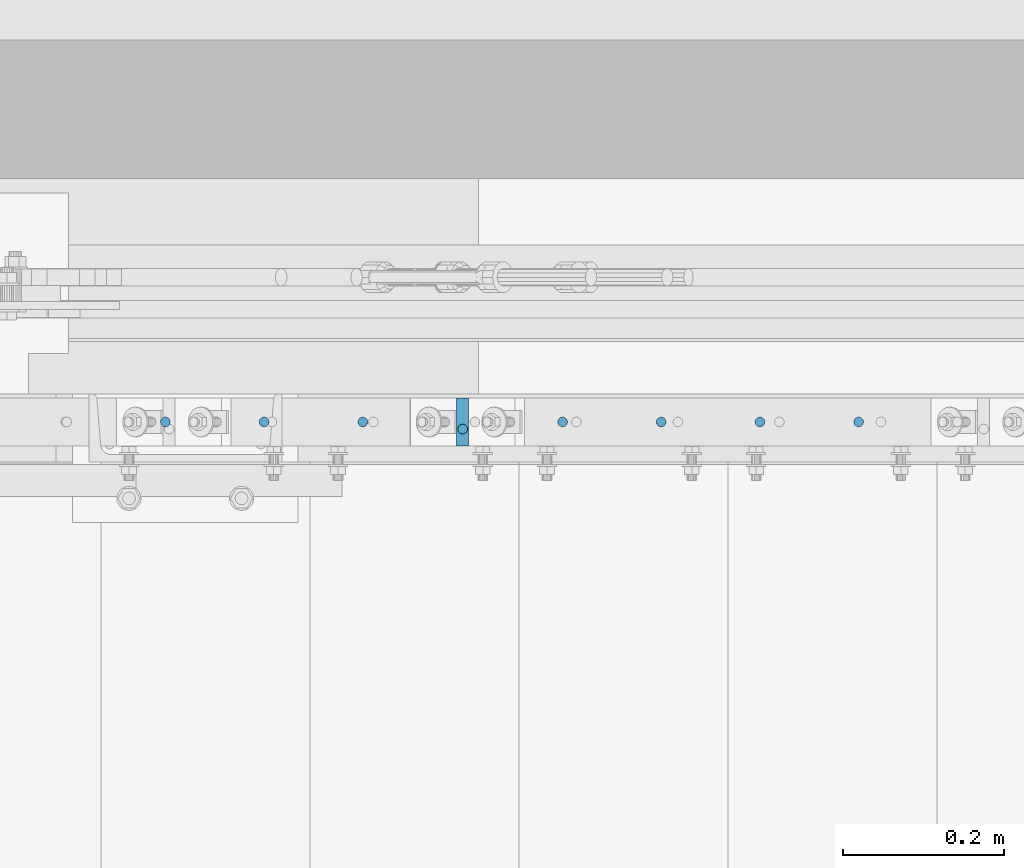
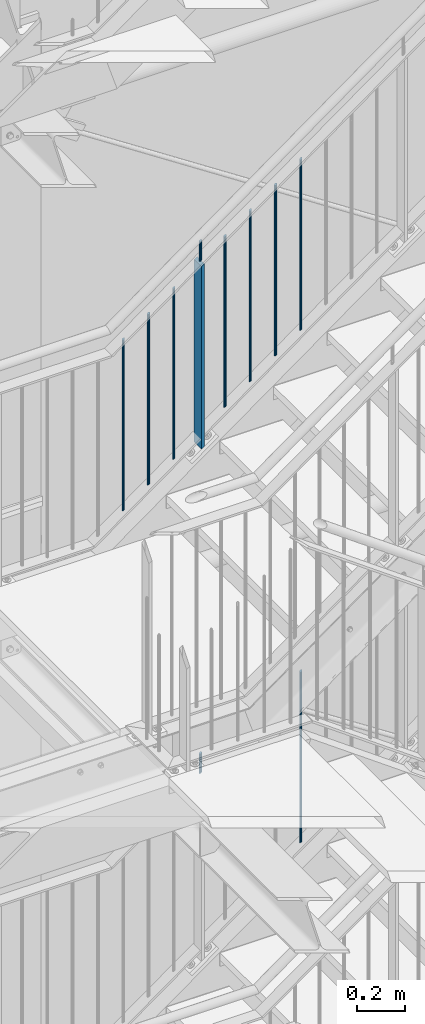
# One storey, part 76 of 825: 11 columns.
"""IFC2X3 building model written with IfcOpenShell, lengths in millimetres."""

from ifc_helpers import new_model, entity, si_unit, converted_unit, frame, origin, origin_with_axes, origin_2d, place, context, project, spatial, rectangle, circle, extrude, clip, halfspace, material, element, save


model = new_model("IFC2X3")

# Units and contexts
model_context = context("Model", 3, precision=1e-09, world=origin_with_axes())
ifc_project = project(units=[si_unit("LENGTHUNIT", "METRE", prefix="MILLI"), si_unit("AREAUNIT", "SQUARE_METRE"), si_unit("VOLUMEUNIT", "CUBIC_METRE"), converted_unit("PLANEANGLEUNIT", "DEGREE", entity("IfcPlaneAngleMeasure", 0.01745329), si_unit("PLANEANGLEUNIT", "RADIAN"), dimensions=[0, 0, 0, 0, 0, 0, 0])], contexts=[model_context])

# Site, building, storey
site_placement = place(None, origin_with_axes())
site = spatial("IfcSite", under=ifc_project, at=site_placement, Name="Cnopf'sche Kinderklinik", CompositionType="ELEMENT")
building_placement = place(site_placement, origin_with_axes())
building = spatial("IfcBuilding", under=site, at=building_placement, Name="Struktur 1", CompositionType="ELEMENT")
storey_placement = place(building_placement, origin_with_axes())
storey = spatial("IfcBuildingStorey", under=building, at=storey_placement, Name="Default Storey", CompositionType="ELEMENT", Elevation=0.0)

# Columns
ifc_material = material(Name="S235JR")
column_1_placement = place(None, frame((6179.213617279, 7356.736971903, 11644.193044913), z_axis=(0.0, 0.0, 1.0), x_axis=(1.0, 0.0, 0.0)))
element("IfcColumn", 1, at=column_1_placement, inside=storey, material=ifc_material, Name="Railing_Picket_Stair#10", ObjectType="Railing_Picket_Stair#10", context=model_context, shape_type="Clipping", body=[
    clip(clip(extrude(circle(Radius=6.0, at=origin_2d()), origin(), (0.0, 0.0, -1.0), 896.125751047), halfspace(frame((-9583.626906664, -7356.736971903, -6927.000669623), z_axis=(0.585213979, 0.0, -0.810878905), x_axis=(0.0, 1.0, 0.0)), True)), halfspace(frame((-9168.314061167, -7356.736971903, -7502.462701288), z_axis=(-0.585213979, 0.0, 0.810878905), x_axis=(0.0, -1.0, 0.0)), True)),
])
column_2_placement = place(None, frame((5686.71354585, 7347.936971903, 11401.086417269), z_axis=(0.0, 0.0, 1.0), x_axis=(0.0, -1.0, 0.0)))
element("IfcColumn", 2, at=column_2_placement, inside=storey, material=ifc_material, Name="Bar#1", ObjectType="Bar#1", context=model_context, shape_type="Clipping", body=[
    clip(clip(extrude(circle(Radius=6.0, at=origin_2d()), origin(), (0.0, 0.0, -1.0), 120.928603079), halfspace(frame((7347.936971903, -9096.980145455, -6675.78363117), z_axis=(0.0, -0.585213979, 0.810878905), x_axis=(1.0, 0.0, 0.0)), True)), halfspace(frame((7347.936971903, -9144.432742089, -6610.032793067), z_axis=(0.0, 0.585213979, -0.810878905), x_axis=(-1.0, 0.0, 0.0)), True)),
])
column_3_placement = place(None, frame((5686.71354585, 7356.736971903, 13944.413997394), z_axis=(0.0, 0.0, 1.0), x_axis=(1.0, 0.0, 0.0)))
element("IfcColumn", 3, at=column_3_placement, inside=storey, material=ifc_material, Name="Railing_Post_Stair#1", ObjectType="Railing_Post_Stair#1", context=model_context, shape_type="Clipping", body=[
    clip(clip(extrude(rectangle(XDim=15.0, YDim=60.0, at=origin_2d()), origin(), (0.0, 0.0, -1.0), 1013.143391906), halfspace(frame((-9891.723196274, -7356.736971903, -8135.596112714), z_axis=(-0.586383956, 0.0, 0.810033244), x_axis=(0.0, -1.0, 0.0)), True)), halfspace(frame((-10336.689662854, -7356.736971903, -7520.917578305), z_axis=(0.586383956, 0.0, -0.810033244), x_axis=(0.0, 1.0, 0.0)), True)),
])
column_4_placement = place(None, frame((5316.963498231, 7356.736971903, 13649.051420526), z_axis=(0.0, 0.0, 1.0), x_axis=(1.0, 0.0, 0.0)))
element("IfcColumn", 4, at=column_4_placement, inside=storey, material=ifc_material, Name="Railing_Picket_Stair#4", ObjectType="Railing_Picket_Stair#4", context=model_context, shape_type="Clipping", body=[
    clip(clip(extrude(circle(Radius=6.0, at=origin_2d()), origin(), (0.0, 0.0, -1.0), 896.017308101), halfspace(frame((-9966.939615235, -7356.736971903, -7225.555001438), z_axis=(0.586383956, 0.0, -0.810033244), x_axis=(0.0, 1.0, 0.0)), True)), halfspace(frame((-9551.292346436, -7356.736971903, -7799.73187365), z_axis=(-0.586383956, 0.0, 0.810033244), x_axis=(0.0, -1.0, 0.0)), True)),
])
column_5_placement = place(None, frame((5439.713522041, 7356.736971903, 13737.910297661), z_axis=(0.0, 0.0, 1.0), x_axis=(1.0, 0.0, 0.0)))
element("IfcColumn", 5, at=column_5_placement, inside=storey, material=ifc_material, Name="Railing_Picket_Stair#5", ObjectType="Railing_Picket_Stair#5", context=model_context, shape_type="Clipping", body=[
    clip(clip(extrude(circle(Radius=6.0, at=origin_2d()), origin(), (0.0, 0.0, -1.0), 896.017308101), halfspace(frame((-10089.689639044, -7356.736971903, -7314.413878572), z_axis=(0.586383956, 0.0, -0.810033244), x_axis=(0.0, 1.0, 0.0)), True)), halfspace(frame((-9674.042370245, -7356.736971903, -7888.590750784), z_axis=(-0.586383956, 0.0, 0.810033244), x_axis=(0.0, -1.0, 0.0)), True)),
])
column_6_placement = place(None, frame((5562.46354585, 7356.736971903, 13826.769174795), z_axis=(0.0, 0.0, 1.0), x_axis=(1.0, 0.0, 0.0)))
element("IfcColumn", 6, at=column_6_placement, inside=storey, material=ifc_material, Name="Railing_Picket_Stair#6", ObjectType="Railing_Picket_Stair#6", context=model_context, shape_type="Clipping", body=[
    clip(clip(extrude(circle(Radius=6.0, at=origin_2d()), origin(), (0.0, 0.0, -1.0), 896.017308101), halfspace(frame((-10212.439662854, -7356.736971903, -7403.272755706), z_axis=(0.586383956, 0.0, -0.810033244), x_axis=(0.0, 1.0, 0.0)), True)), halfspace(frame((-9796.792394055, -7356.736971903, -7977.449627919), z_axis=(-0.586383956, 0.0, 0.810033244), x_axis=(0.0, -1.0, 0.0)), True)),
])
column_7_placement = place(None, frame((5810.96354585, 7356.736971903, 14006.658597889), z_axis=(0.0, 0.0, 1.0), x_axis=(1.0, 0.0, 0.0)))
element("IfcColumn", 7, at=column_7_placement, inside=storey, material=ifc_material, Name="Railing_Picket_Stair#7", ObjectType="Railing_Picket_Stair#7", context=model_context, shape_type="Clipping", body=[
    clip(clip(extrude(circle(Radius=6.0, at=origin_2d()), origin(), (0.0, 0.0, -1.0), 896.017308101), halfspace(frame((-10460.939662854, -7356.736971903, -7583.1621788), z_axis=(0.586383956, 0.0, -0.810033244), x_axis=(0.0, 1.0, 0.0)), True)), halfspace(frame((-10045.292394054, -7356.736971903, -8157.339051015), z_axis=(-0.586383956, 0.0, 0.810033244), x_axis=(0.0, -1.0, 0.0)), True)),
])
column_8_placement = place(None, frame((5933.71356966, 7356.736971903, 14095.517475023), z_axis=(0.0, 0.0, 1.0), x_axis=(1.0, 0.0, 0.0)))
element("IfcColumn", 8, at=column_8_placement, inside=storey, material=ifc_material, Name="Railing_Picket_Stair#8", ObjectType="Railing_Picket_Stair#8", context=model_context, shape_type="Clipping", body=[
    clip(clip(extrude(circle(Radius=6.0, at=origin_2d()), origin(), (0.0, 0.0, -1.0), 896.017308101), halfspace(frame((-10583.689686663, -7356.736971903, -7672.021055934), z_axis=(0.586383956, 0.0, -0.810033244), x_axis=(0.0, 1.0, 0.0)), True)), halfspace(frame((-10168.042417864, -7356.736971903, -8246.197928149), z_axis=(-0.586383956, 0.0, 0.810033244), x_axis=(0.0, -1.0, 0.0)), True)),
])
column_9_placement = place(None, frame((6056.463593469, 7356.736971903, 14184.376352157), z_axis=(0.0, 0.0, 1.0), x_axis=(1.0, 0.0, 0.0)))
element("IfcColumn", 9, at=column_9_placement, inside=storey, material=ifc_material, Name="Railing_Picket_Stair#9", ObjectType="Railing_Picket_Stair#9", context=model_context, shape_type="Clipping", body=[
    clip(clip(extrude(circle(Radius=6.0, at=origin_2d()), origin(), (0.0, 0.0, -1.0), 896.017308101), halfspace(frame((-10706.439710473, -7356.736971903, -7760.879933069), z_axis=(0.586383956, 0.0, -0.810033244), x_axis=(0.0, 1.0, 0.0)), True)), halfspace(frame((-10290.792441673, -7356.736971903, -8335.056805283), z_axis=(-0.586383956, 0.0, 0.810033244), x_axis=(0.0, -1.0, 0.0)), True)),
])
column_10_placement = place(None, frame((6179.213617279, 7356.736971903, 14273.235229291), z_axis=(0.0, 0.0, 1.0), x_axis=(1.0, 0.0, 0.0)))
element("IfcColumn", 10, at=column_10_placement, inside=storey, material=ifc_material, Name="Railing_Picket_Stair#10", ObjectType="Railing_Picket_Stair#10", context=model_context, shape_type="Clipping", body=[
    clip(clip(extrude(circle(Radius=6.0, at=origin_2d()), origin(), (0.0, 0.0, -1.0), 896.017308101), halfspace(frame((-10829.189734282, -7356.736971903, -7849.738810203), z_axis=(0.586383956, 0.0, -0.810033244), x_axis=(0.0, 1.0, 0.0)), True)), halfspace(frame((-10413.542465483, -7356.736971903, -8423.915682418), z_axis=(-0.586383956, 0.0, 0.810033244), x_axis=(0.0, -1.0, 0.0)), True)),
])
column_11_placement = place(None, frame((5686.71354585, 7347.936971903, 14029.059058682), z_axis=(0.0, 0.0, 1.0), x_axis=(0.0, -1.0, 0.0)))
element("IfcColumn", 11, at=column_11_placement, inside=storey, material=ifc_material, Name="Bar#1", ObjectType="Bar#1", context=model_context, shape_type="Clipping", body=[
    clip(clip(extrude(circle(Radius=6.0, at=origin_2d()), origin(), (0.0, 0.0, -1.0), 120.950452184), halfspace(frame((7347.936971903, -10342.554675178, -7597.460687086), z_axis=(0.0, -0.586383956, 0.810033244), x_axis=(1.0, 0.0, 0.0)), True)), halfspace(frame((7347.936971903, -10390.052552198, -7531.846921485), z_axis=(0.0, 0.586383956, -0.810033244), x_axis=(-1.0, 0.0, 0.0)), True)),
])

save(model, "model.ifc")
